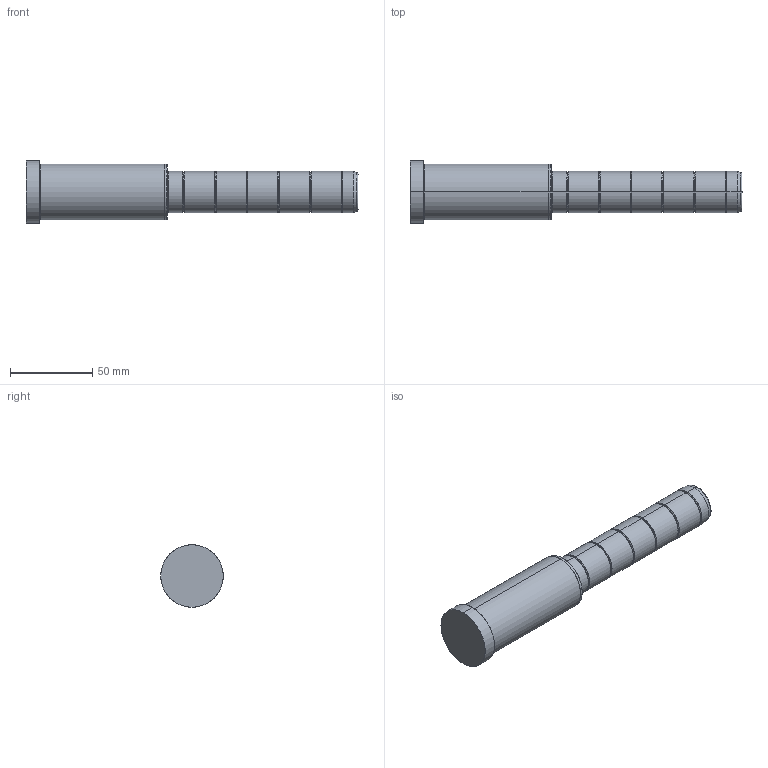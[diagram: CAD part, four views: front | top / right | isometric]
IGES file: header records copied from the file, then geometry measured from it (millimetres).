
Start section: SolidWorks IGES file using analytic representation for surfaces
Global section: file name: C:\Documents and Settings\kalite-mail\Desktop\IGS\D02\25\D02 - 25x86x116.IGS; native system: SolidWorks 2008; preprocessor: SolidWorks 2008; author: kalite-mail; date: 080617.084303; units: millimetre
Bounding box: 202 x 38 x 38 mm (x, y, z)
Surface area: 20796.5 mm2 (no closed solid volume)
Topology: 0 solids, 0 shells, 60 faces, 792 edges, 792 vertices
Faces by surface type: bspline 34, revolution 26
